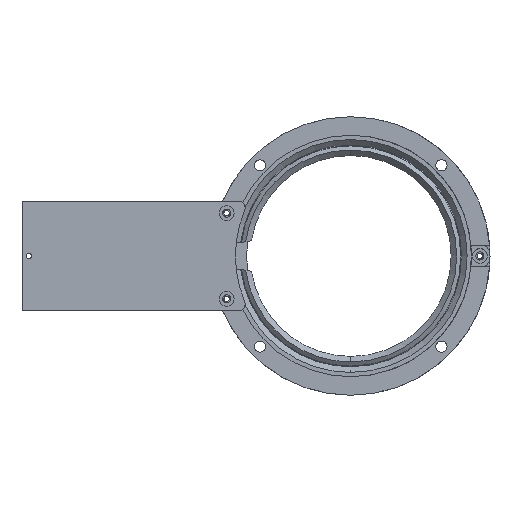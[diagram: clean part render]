
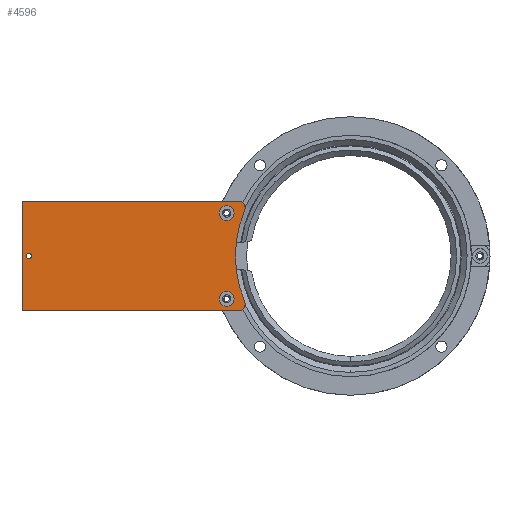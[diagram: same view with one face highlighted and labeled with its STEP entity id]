
A CAD part, top view. The second image highlights one B-rep face of the part: STEP entity #4596.
In plain terms, the highlighted planar face has unit normal (0, 0, 1).
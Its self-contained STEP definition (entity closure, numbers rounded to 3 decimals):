
#4 = DIRECTION ( 'NONE',  ( -1., 0., 0. ) ) ;
#20 = LINE ( 'NONE', #1651, #4970 ) ;
#38 = ORIENTED_EDGE ( 'NONE', *, *, #5126, .T. ) ;
#116 = AXIS2_PLACEMENT_3D ( 'NONE', #2819, #1514, #3116 ) ;
#298 = DIRECTION ( 'NONE',  ( 0., 0., 1. ) ) ;
#364 = VERTEX_POINT ( 'NONE', #2601 ) ;
#484 = FACE_BOUND ( 'NONE', #2329, .T. ) ;
#537 = VERTEX_POINT ( 'NONE', #5202 ) ;
#592 = DIRECTION ( 'NONE',  ( 1., 0., 0. ) ) ;
#612 = EDGE_CURVE ( 'NONE', #1778, #1897, #2428, .T. ) ;
#647 = DIRECTION ( 'NONE',  ( -1., 0., 0. ) ) ;
#699 = CARTESIAN_POINT ( 'NONE',  ( 57.148, -12.6, 31.753 ) ) ;
#721 = CARTESIAN_POINT ( 'NONE',  ( 59.348, -38., 31.753 ) ) ;
#857 = DIRECTION ( 'NONE',  ( 0., 0., 1. ) ) ;
#899 = CIRCLE ( 'NONE', #5233, 0.8 ) ;
#989 = EDGE_LOOP ( 'NONE', ( #2829, #3215 ) ) ;
#1146 = DIRECTION ( 'NONE',  ( 0., 0., 1. ) ) ;
#1231 = EDGE_LOOP ( 'NONE', ( #2818, #3450 ) ) ;
#1261 = ORIENTED_EDGE ( 'NONE', *, *, #612, .F. ) ;
#1306 = VERTEX_POINT ( 'NONE', #4183 ) ;
#1401 = CIRCLE ( 'NONE', #2577, 2.2 ) ;
#1430 = CIRCLE ( 'NONE', #3023, 2.2 ) ;
#1447 = FACE_BOUND ( 'NONE', #1231, .T. ) ;
#1451 = EDGE_CURVE ( 'NONE', #537, #2331, #4406, .T. ) ;
#1514 = DIRECTION ( 'NONE',  ( 0., 0., 1. ) ) ;
#1541 = ORIENTED_EDGE ( 'NONE', *, *, #4894, .F. ) ;
#1569 = VERTEX_POINT ( 'NONE', #5113 ) ;
#1622 = AXIS2_PLACEMENT_3D ( 'NONE', #1862, #4369, #2247 ) ;
#1651 = CARTESIAN_POINT ( 'NONE',  ( -3.452, -41.55, 31.753 ) ) ;
#1706 = CARTESIAN_POINT ( 'NONE',  ( -3.452, -9.05, 31.753 ) ) ;
#1716 = ORIENTED_EDGE ( 'NONE', *, *, #3660, .F. ) ;
#1729 = DIRECTION ( 'NONE',  ( 1., 0., 0. ) ) ;
#1732 = VERTEX_POINT ( 'NONE', #2202 ) ;
#1778 = VERTEX_POINT ( 'NONE', #3481 ) ;
#1790 = DIRECTION ( 'NONE',  ( 0., 0., 1. ) ) ;
#1820 = CARTESIAN_POINT ( 'NONE',  ( 60.645, -9.05, 31.753 ) ) ;
#1844 = ORIENTED_EDGE ( 'NONE', *, *, #2667, .F. ) ;
#1862 = CARTESIAN_POINT ( 'NONE',  ( 57.148, -38., 31.753 ) ) ;
#1897 = VERTEX_POINT ( 'NONE', #3623 ) ;
#1899 = VERTEX_POINT ( 'NONE', #3260 ) ;
#1920 = CARTESIAN_POINT ( 'NONE',  ( 60.645, -39.55, 31.753 ) ) ;
#2007 = EDGE_CURVE ( 'NONE', #1732, #364, #1401, .T. ) ;
#2107 = VECTOR ( 'NONE', #4915, 1000. ) ;
#2154 = CARTESIAN_POINT ( 'NONE',  ( -3.452, -41.55, 31.753 ) ) ;
#2166 = PLANE ( 'NONE',  #2517 ) ;
#2184 = ORIENTED_EDGE ( 'NONE', *, *, #4774, .T. ) ;
#2202 = CARTESIAN_POINT ( 'NONE',  ( 54.948, -12.6, 31.753 ) ) ;
#2220 = LINE ( 'NONE', #1706, #2107 ) ;
#2247 = DIRECTION ( 'NONE',  ( -1., 0., 0. ) ) ;
#2260 = VERTEX_POINT ( 'NONE', #721 ) ;
#2329 = EDGE_LOOP ( 'NONE', ( #2995, #1844 ) ) ;
#2331 = VERTEX_POINT ( 'NONE', #5238 ) ;
#2362 = VERTEX_POINT ( 'NONE', #1820 ) ;
#2364 = CARTESIAN_POINT ( 'NONE',  ( -1.452, -25.3, 31.753 ) ) ;
#2428 = CIRCLE ( 'NONE', #116, 34.5 ) ;
#2500 = LINE ( 'NONE', #2154, #4466 ) ;
#2517 = AXIS2_PLACEMENT_3D ( 'NONE', #3792, #5003, #1729 ) ;
#2523 = AXIS2_PLACEMENT_3D ( 'NONE', #3869, #3095, #3433 ) ;
#2577 = AXIS2_PLACEMENT_3D ( 'NONE', #3704, #4145, #4072 ) ;
#2601 = CARTESIAN_POINT ( 'NONE',  ( 59.348, -12.6, 31.753 ) ) ;
#2614 = AXIS2_PLACEMENT_3D ( 'NONE', #2622, #4153, #592 ) ;
#2620 = ORIENTED_EDGE ( 'NONE', *, *, #5099, .T. ) ;
#2622 = CARTESIAN_POINT ( 'NONE',  ( -1.452, -25.3, 31.753 ) ) ;
#2667 = EDGE_CURVE ( 'NONE', #2260, #1569, #4946, .T. ) ;
#2693 = EDGE_LOOP ( 'NONE', ( #2972, #38, #2620, #1541, #1716, #2184, #1261 ) ) ;
#2818 = ORIENTED_EDGE ( 'NONE', *, *, #2007, .F. ) ;
#2819 = CARTESIAN_POINT ( 'NONE',  ( 94.248, -25.3, 31.753 ) ) ;
#2825 = EDGE_CURVE ( 'NONE', #2871, #1778, #2917, .T. ) ;
#2829 = ORIENTED_EDGE ( 'NONE', *, *, #1451, .T. ) ;
#2841 = AXIS2_PLACEMENT_3D ( 'NONE', #2888, #857, #4 ) ;
#2871 = VERTEX_POINT ( 'NONE', #3330 ) ;
#2888 = CARTESIAN_POINT ( 'NONE',  ( 57.148, -38., 31.753 ) ) ;
#2917 = CIRCLE ( 'NONE', #4455, 34.5 ) ;
#2927 = CARTESIAN_POINT ( 'NONE',  ( 60.645, -41.55, 31.753 ) ) ;
#2972 = ORIENTED_EDGE ( 'NONE', *, *, #2825, .F. ) ;
#2995 = ORIENTED_EDGE ( 'NONE', *, *, #5201, .F. ) ;
#3023 = AXIS2_PLACEMENT_3D ( 'NONE', #699, #298, #647 ) ;
#3095 = DIRECTION ( 'NONE',  ( 0., 0., 1. ) ) ;
#3116 = DIRECTION ( 'NONE',  ( -1., 0., 0. ) ) ;
#3215 = ORIENTED_EDGE ( 'NONE', *, *, #4755, .T. ) ;
#3247 = DIRECTION ( 'NONE',  ( 0., 1., 0. ) ) ;
#3260 = CARTESIAN_POINT ( 'NONE',  ( -3.452, -9.05, 31.753 ) ) ;
#3294 = VERTEX_POINT ( 'NONE', #2927 ) ;
#3330 = CARTESIAN_POINT ( 'NONE',  ( 62.486, -11.831, 31.753 ) ) ;
#3358 = CARTESIAN_POINT ( 'NONE',  ( 94.248, -25.3, 31.753 ) ) ;
#3433 = DIRECTION ( 'NONE',  ( 1., 0., 0. ) ) ;
#3450 = ORIENTED_EDGE ( 'NONE', *, *, #3493, .F. ) ;
#3481 = CARTESIAN_POINT ( 'NONE',  ( 59.748, -25.3, 31.753 ) ) ;
#3493 = EDGE_CURVE ( 'NONE', #364, #1732, #1430, .T. ) ;
#3504 = DIRECTION ( 'NONE',  ( 0., 0., -1. ) ) ;
#3560 = CIRCLE ( 'NONE', #2523, 2. ) ;
#3623 = CARTESIAN_POINT ( 'NONE',  ( 62.486, -38.769, 31.753 ) ) ;
#3660 = EDGE_CURVE ( 'NONE', #3294, #1306, #2500, .T. ) ;
#3704 = CARTESIAN_POINT ( 'NONE',  ( 57.148, -12.6, 31.753 ) ) ;
#3775 = DIRECTION ( 'NONE',  ( -1., 0., 0. ) ) ;
#3792 = CARTESIAN_POINT ( 'NONE',  ( -3.452, -41.55, 31.753 ) ) ;
#3869 = CARTESIAN_POINT ( 'NONE',  ( 60.645, -11.05, 31.753 ) ) ;
#3984 = DIRECTION ( 'NONE',  ( 1., 0., 0. ) ) ;
#4052 = CIRCLE ( 'NONE', #1622, 2.2 ) ;
#4072 = DIRECTION ( 'NONE',  ( -1., 0., 0. ) ) ;
#4126 = AXIS2_PLACEMENT_3D ( 'NONE', #1920, #1146, #4374 ) ;
#4145 = DIRECTION ( 'NONE',  ( 0., 0., 1. ) ) ;
#4153 = DIRECTION ( 'NONE',  ( 0., 0., -1. ) ) ;
#4178 = FACE_BOUND ( 'NONE', #989, .T. ) ;
#4183 = CARTESIAN_POINT ( 'NONE',  ( -3.452, -41.55, 31.753 ) ) ;
#4209 = DIRECTION ( 'NONE',  ( -1., 0., 0. ) ) ;
#4369 = DIRECTION ( 'NONE',  ( 0., 0., 1. ) ) ;
#4374 = DIRECTION ( 'NONE',  ( 1., 0., 0. ) ) ;
#4398 = CIRCLE ( 'NONE', #4126, 2. ) ;
#4406 = CIRCLE ( 'NONE', #2614, 0.8 ) ;
#4455 = AXIS2_PLACEMENT_3D ( 'NONE', #3358, #1790, #4209 ) ;
#4466 = VECTOR ( 'NONE', #3775, 1000. ) ;
#4521 = FACE_OUTER_BOUND ( 'NONE', #2693, .T. ) ;
#4596 = ADVANCED_FACE ( 'NONE', ( #4178, #1447, #484, #4521 ), #2166, .F. ) ;
#4755 = EDGE_CURVE ( 'NONE', #2331, #537, #899, .T. ) ;
#4774 = EDGE_CURVE ( 'NONE', #3294, #1897, #4398, .T. ) ;
#4894 = EDGE_CURVE ( 'NONE', #1306, #1899, #20, .T. ) ;
#4915 = DIRECTION ( 'NONE',  ( -1., 0., 0. ) ) ;
#4946 = CIRCLE ( 'NONE', #2841, 2.2 ) ;
#4970 = VECTOR ( 'NONE', #3247, 1000. ) ;
#5003 = DIRECTION ( 'NONE',  ( 0., 0., -1. ) ) ;
#5099 = EDGE_CURVE ( 'NONE', #2362, #1899, #2220, .T. ) ;
#5113 = CARTESIAN_POINT ( 'NONE',  ( 54.948, -38., 31.753 ) ) ;
#5126 = EDGE_CURVE ( 'NONE', #2871, #2362, #3560, .T. ) ;
#5201 = EDGE_CURVE ( 'NONE', #1569, #2260, #4052, .T. ) ;
#5202 = CARTESIAN_POINT ( 'NONE',  ( -0.652, -25.3, 31.753 ) ) ;
#5233 = AXIS2_PLACEMENT_3D ( 'NONE', #2364, #3504, #3984 ) ;
#5238 = CARTESIAN_POINT ( 'NONE',  ( -2.252, -25.3, 31.753 ) ) ;
